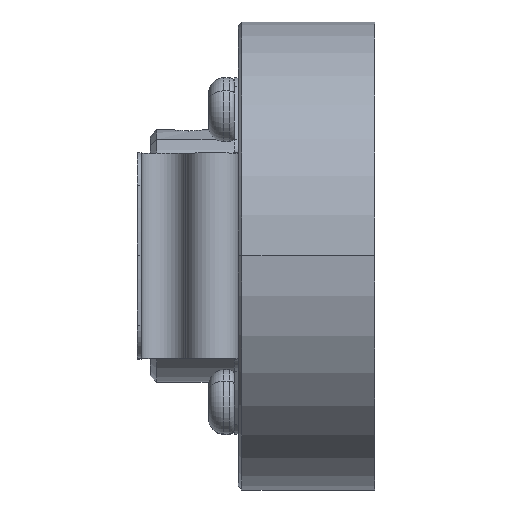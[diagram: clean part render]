
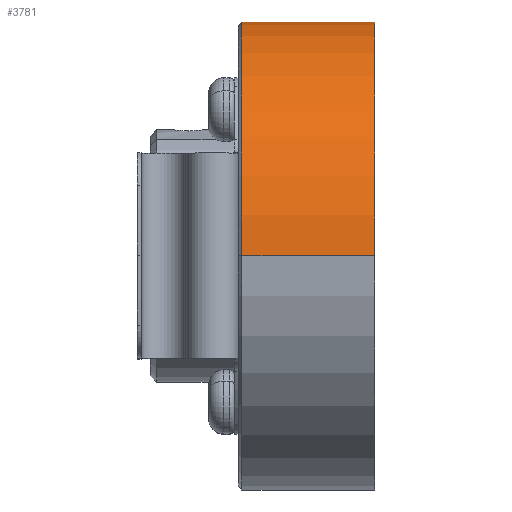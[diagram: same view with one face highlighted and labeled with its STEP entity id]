
A CAD part, top view. The second image highlights one B-rep face of the part: STEP entity #3781.
In plain terms, the highlighted cylindrical face has radius 18.25 mm (diameter 36.5 mm), a partial arc.
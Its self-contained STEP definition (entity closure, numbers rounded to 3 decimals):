
#769 = EDGE_CURVE ( 'NONE', #1562, #1266, #5647, .T. ) ;
#1266 = VERTEX_POINT ( 'NONE', #8423 ) ;
#1557 = EDGE_LOOP ( 'NONE', ( #13525, #5460, #6775, #10013 ) ) ;
#1562 = VERTEX_POINT ( 'NONE', #4264 ) ;
#2016 = VECTOR ( 'NONE', #7127, 1000. ) ;
#2264 = DIRECTION ( 'NONE',  ( -1., 0., 0. ) ) ;
#2560 = AXIS2_PLACEMENT_3D ( 'NONE', #8491, #12385, #9806 ) ;
#3781 = ADVANCED_FACE ( 'NONE', ( #7839 ), #15291, .T. ) ;
#4225 = CARTESIAN_POINT ( 'NONE',  ( -1000., 0., 0. ) ) ;
#4264 = CARTESIAN_POINT ( 'NONE',  ( -11.65, 0., -18.25 ) ) ;
#4402 = VECTOR ( 'NONE', #7520, 1000. ) ;
#4605 = LINE ( 'NONE', #15403, #4402 ) ;
#4727 = DIRECTION ( 'NONE',  ( 0., 0., 1. ) ) ;
#5460 = ORIENTED_EDGE ( 'NONE', *, *, #16080, .T. ) ;
#5647 = CIRCLE ( 'NONE', #2560, 18.25 ) ;
#5976 = DIRECTION ( 'NONE',  ( 0., 0., 1. ) ) ;
#6083 = AXIS2_PLACEMENT_3D ( 'NONE', #15446, #2264, #4727 ) ;
#6130 = VERTEX_POINT ( 'NONE', #16858 ) ;
#6219 = AXIS2_PLACEMENT_3D ( 'NONE', #4225, #14848, #5976 ) ;
#6775 = ORIENTED_EDGE ( 'NONE', *, *, #769, .T. ) ;
#6859 = EDGE_CURVE ( 'NONE', #6130, #15301, #9359, .T. ) ;
#7127 = DIRECTION ( 'NONE',  ( -1., 0., 0. ) ) ;
#7454 = EDGE_CURVE ( 'NONE', #6130, #1266, #11792, .T. ) ;
#7520 = DIRECTION ( 'NONE',  ( -1., 0., 0. ) ) ;
#7839 = FACE_OUTER_BOUND ( 'NONE', #1557, .T. ) ;
#8423 = CARTESIAN_POINT ( 'NONE',  ( -11.65, 0., 18.25 ) ) ;
#8491 = CARTESIAN_POINT ( 'NONE',  ( -11.65, 0., 0. ) ) ;
#9359 = CIRCLE ( 'NONE', #6083, 18.25 ) ;
#9806 = DIRECTION ( 'NONE',  ( 0., 0., 1. ) ) ;
#10013 = ORIENTED_EDGE ( 'NONE', *, *, #7454, .F. ) ;
#10017 = CARTESIAN_POINT ( 'NONE',  ( -1.3, 0., -18.25 ) ) ;
#11792 = LINE ( 'NONE', #14960, #2016 ) ;
#12385 = DIRECTION ( 'NONE',  ( 1., 0., 0. ) ) ;
#13525 = ORIENTED_EDGE ( 'NONE', *, *, #6859, .T. ) ;
#14848 = DIRECTION ( 'NONE',  ( -1., 0., 0. ) ) ;
#14960 = CARTESIAN_POINT ( 'NONE',  ( -1000., 0., 18.25 ) ) ;
#15291 = CYLINDRICAL_SURFACE ( 'NONE', #6219, 18.25 ) ;
#15301 = VERTEX_POINT ( 'NONE', #10017 ) ;
#15403 = CARTESIAN_POINT ( 'NONE',  ( -1000., 0., -18.25 ) ) ;
#15446 = CARTESIAN_POINT ( 'NONE',  ( -1.3, 0., 0. ) ) ;
#16080 = EDGE_CURVE ( 'NONE', #15301, #1562, #4605, .T. ) ;
#16858 = CARTESIAN_POINT ( 'NONE',  ( -1.3, 0., 18.25 ) ) ;
